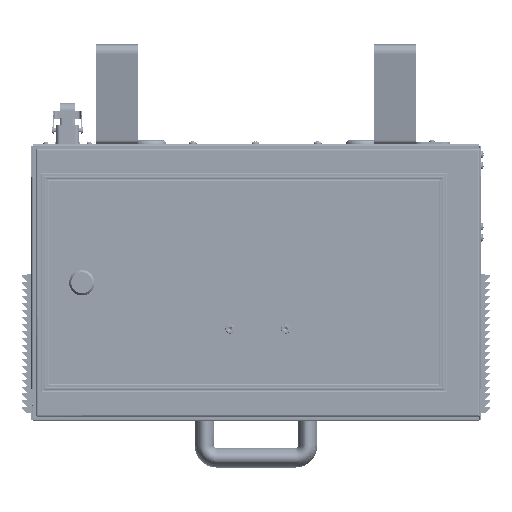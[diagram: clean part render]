
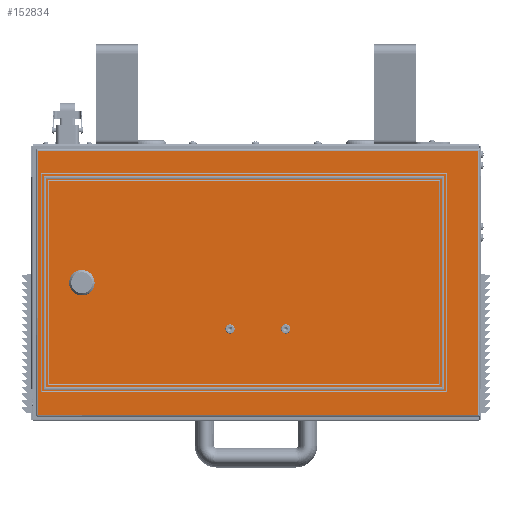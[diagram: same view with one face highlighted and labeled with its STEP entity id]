
A CAD part, front view. The second image highlights one B-rep face of the part: STEP entity #152834.
In plain terms, the highlighted planar face has unit normal (0, -1, 0) as drawn and (0, 1, 0) by its records, which use the part's own axes.
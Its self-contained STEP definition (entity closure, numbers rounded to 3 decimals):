
#842 = VECTOR ( 'NONE', #218004, 1000. ) ;
#2275 = DIRECTION ( 'NONE',  ( 0., 1., 0. ) ) ;
#3655 = LINE ( 'NONE', #47138, #38205 ) ;
#7771 = EDGE_CURVE ( 'NONE', #27066, #113745, #224921, .T. ) ;
#8530 = LINE ( 'NONE', #183546, #215748 ) ;
#9368 = ORIENTED_EDGE ( 'NONE', *, *, #7771, .T. ) ;
#10728 = EDGE_CURVE ( 'NONE', #213079, #110636, #239413, .T. ) ;
#11485 = VECTOR ( 'NONE', #238585, 1000. ) ;
#13039 = ORIENTED_EDGE ( 'NONE', *, *, #26577, .F. ) ;
#14384 = VECTOR ( 'NONE', #247694, 1000. ) ;
#15666 = CIRCLE ( 'NONE', #224480, 11.25 ) ;
#18927 = CARTESIAN_POINT ( 'NONE',  ( 237.5, 0., 142.5 ) ) ;
#25254 = ORIENTED_EDGE ( 'NONE', *, *, #248512, .F. ) ;
#26313 = AXIS2_PLACEMENT_3D ( 'NONE', #226408, #26471, #246666 ) ;
#26471 = DIRECTION ( 'NONE',  ( 0., 1., 0. ) ) ;
#26577 = EDGE_CURVE ( 'NONE', #59531, #250896, #15666, .T. ) ;
#27066 = VERTEX_POINT ( 'NONE', #76697 ) ;
#29786 = AXIS2_PLACEMENT_3D ( 'NONE', #176644, #193378, #154660 ) ;
#32026 = CARTESIAN_POINT ( 'NONE',  ( -190., 0., 0. ) ) ;
#34189 = CARTESIAN_POINT ( 'NONE',  ( -190., 0., 0. ) ) ;
#35884 = ORIENTED_EDGE ( 'NONE', *, *, #229937, .T. ) ;
#36537 = CARTESIAN_POINT ( 'NONE',  ( -195.056, 0., -10.05 ) ) ;
#37642 = DIRECTION ( 'NONE',  ( 0., 1., 0. ) ) ;
#38205 = VECTOR ( 'NONE', #165698, 1000. ) ;
#44141 = ORIENTED_EDGE ( 'NONE', *, *, #52566, .F. ) ;
#44166 = EDGE_CURVE ( 'NONE', #204737, #215616, #109956, .T. ) ;
#46015 = EDGE_LOOP ( 'NONE', ( #25254, #107389 ) ) ;
#46631 = DIRECTION ( 'NONE',  ( 0., 0., 1. ) ) ;
#47138 = CARTESIAN_POINT ( 'NONE',  ( -237.5, 0., -142.5 ) ) ;
#50053 = CARTESIAN_POINT ( 'NONE',  ( 237.5, 0., -142.5 ) ) ;
#52566 = EDGE_CURVE ( 'NONE', #247396, #132863, #162828, .T. ) ;
#54006 = AXIS2_PLACEMENT_3D ( 'NONE', #217096, #137262, #176806 ) ;
#55197 = AXIS2_PLACEMENT_3D ( 'NONE', #122544, #2275, #142672 ) ;
#56625 = CARTESIAN_POINT ( 'NONE',  ( -237.5, 0., -142.5 ) ) ;
#58525 = VERTEX_POINT ( 'NONE', #204708 ) ;
#58533 = ORIENTED_EDGE ( 'NONE', *, *, #214069, .F. ) ;
#59531 = VERTEX_POINT ( 'NONE', #177874 ) ;
#63429 = EDGE_CURVE ( 'NONE', #236849, #58525, #227564, .T. ) ;
#65403 = CARTESIAN_POINT ( 'NONE',  ( -190., 0., 0. ) ) ;
#66071 = DIRECTION ( 'NONE',  ( 0., 1., 0. ) ) ;
#67805 = ORIENTED_EDGE ( 'NONE', *, *, #63429, .F. ) ;
#67903 = CIRCLE ( 'NONE', #29786, 3.25 ) ;
#69650 = VECTOR ( 'NONE', #187602, 1000. ) ;
#76697 = CARTESIAN_POINT ( 'NONE',  ( -237.5, 0., 142.5 ) ) ;
#79853 = EDGE_LOOP ( 'NONE', ( #158010, #35884, #216596, #9368 ) ) ;
#80717 = CARTESIAN_POINT ( 'NONE',  ( -237.5, 0., 142.5 ) ) ;
#83194 = CARTESIAN_POINT ( 'NONE',  ( -200.05, 0., 5.056 ) ) ;
#84880 = EDGE_CURVE ( 'NONE', #132863, #247396, #67903, .T. ) ;
#85343 = DIRECTION ( 'NONE',  ( 0., 0., -1. ) ) ;
#88751 = DIRECTION ( 'NONE',  ( -1., 0., 0. ) ) ;
#95311 = PLANE ( 'NONE',  #54006 ) ;
#96472 = EDGE_CURVE ( 'NONE', #239345, #59531, #8530, .T. ) ;
#101784 = LINE ( 'NONE', #162429, #145783 ) ;
#102517 = LINE ( 'NONE', #107283, #14384 ) ;
#106874 = AXIS2_PLACEMENT_3D ( 'NONE', #32026, #109213, #190914 ) ;
#107283 = CARTESIAN_POINT ( 'NONE',  ( -200.05, 0., -5.056 ) ) ;
#107389 = ORIENTED_EDGE ( 'NONE', *, *, #44166, .F. ) ;
#109213 = DIRECTION ( 'NONE',  ( 0., 1., 0. ) ) ;
#109956 = CIRCLE ( 'NONE', #245037, 3.25 ) ;
#110636 = VERTEX_POINT ( 'NONE', #227496 ) ;
#113745 = VERTEX_POINT ( 'NONE', #18927 ) ;
#118667 = VERTEX_POINT ( 'NONE', #249377 ) ;
#120349 = VERTEX_POINT ( 'NONE', #83194 ) ;
#122544 = CARTESIAN_POINT ( 'NONE',  ( -190., 0., 0. ) ) ;
#130127 = DIRECTION ( 'NONE',  ( 0., 0., 1. ) ) ;
#132435 = ORIENTED_EDGE ( 'NONE', *, *, #149362, .F. ) ;
#132863 = VERTEX_POINT ( 'NONE', #179605 ) ;
#137262 = DIRECTION ( 'NONE',  ( 0., 1., 0. ) ) ;
#141713 = EDGE_CURVE ( 'NONE', #118667, #27066, #3655, .T. ) ;
#142672 = DIRECTION ( 'NONE',  ( 0., 0., 1. ) ) ;
#145394 = LINE ( 'NONE', #56625, #842 ) ;
#145783 = VECTOR ( 'NONE', #88751, 1000. ) ;
#147120 = CARTESIAN_POINT ( 'NONE',  ( 237.5, 0., -142.5 ) ) ;
#148615 = FACE_BOUND ( 'NONE', #46015, .T. ) ;
#148778 = AXIS2_PLACEMENT_3D ( 'NONE', #34189, #37642, #178023 ) ;
#149362 = EDGE_CURVE ( 'NONE', #120349, #213079, #247663, .T. ) ;
#151989 = DIRECTION ( 'NONE',  ( 0., 1., 0. ) ) ;
#152834 = ADVANCED_FACE ( 'NONE', ( #220879, #148615, #202116, #195792 ), #95311, .T. ) ;
#154660 = DIRECTION ( 'NONE',  ( 0., 0., 1. ) ) ;
#157993 = CARTESIAN_POINT ( 'NONE',  ( -30., 0., 53.25 ) ) ;
#158010 = ORIENTED_EDGE ( 'NONE', *, *, #219646, .T. ) ;
#158822 = CARTESIAN_POINT ( 'NONE',  ( -195.056, 0., 10.05 ) ) ;
#162429 = CARTESIAN_POINT ( 'NONE',  ( -195.056, 0., -10.05 ) ) ;
#162828 = CIRCLE ( 'NONE', #26313, 3.25 ) ;
#163186 = EDGE_LOOP ( 'NONE', ( #132435, #235936, #67805, #58533, #13039, #237782, #177504, #191757 ) ) ;
#165698 = DIRECTION ( 'NONE',  ( 0., 0., 1. ) ) ;
#167112 = DIRECTION ( 'NONE',  ( 0., 0., 1. ) ) ;
#176644 = CARTESIAN_POINT ( 'NONE',  ( 30., 0., 50. ) ) ;
#176806 = DIRECTION ( 'NONE',  ( 0., 0., 1. ) ) ;
#177367 = CIRCLE ( 'NONE', #230354, 3.25 ) ;
#177504 = ORIENTED_EDGE ( 'NONE', *, *, #189802, .F. ) ;
#177874 = CARTESIAN_POINT ( 'NONE',  ( -179.95, 0., -5.056 ) ) ;
#178023 = DIRECTION ( 'NONE',  ( 0., 0., 1. ) ) ;
#179605 = CARTESIAN_POINT ( 'NONE',  ( 30., 0., 46.75 ) ) ;
#182374 = CARTESIAN_POINT ( 'NONE',  ( -195.056, 0., 10.05 ) ) ;
#183546 = CARTESIAN_POINT ( 'NONE',  ( -179.95, 0., -5.056 ) ) ;
#186107 = VECTOR ( 'NONE', #240414, 1000. ) ;
#187602 = DIRECTION ( 'NONE',  ( 0., 0., -1. ) ) ;
#189802 = EDGE_CURVE ( 'NONE', #110636, #239345, #232146, .T. ) ;
#190914 = DIRECTION ( 'NONE',  ( 0., 0., 1. ) ) ;
#191757 = ORIENTED_EDGE ( 'NONE', *, *, #10728, .F. ) ;
#193378 = DIRECTION ( 'NONE',  ( 0., 1., 0. ) ) ;
#195792 = FACE_OUTER_BOUND ( 'NONE', #79853, .T. ) ;
#196730 = CARTESIAN_POINT ( 'NONE',  ( -184.944, 0., -10.05 ) ) ;
#202116 = FACE_BOUND ( 'NONE', #163186, .T. ) ;
#204708 = CARTESIAN_POINT ( 'NONE',  ( -200.05, 0., -5.056 ) ) ;
#204737 = VERTEX_POINT ( 'NONE', #246665 ) ;
#207529 = DIRECTION ( 'NONE',  ( 0., 1., 0. ) ) ;
#211343 = CARTESIAN_POINT ( 'NONE',  ( 30., 0., 53.25 ) ) ;
#213079 = VERTEX_POINT ( 'NONE', #182374 ) ;
#214069 = EDGE_CURVE ( 'NONE', #250896, #236849, #101784, .T. ) ;
#215616 = VERTEX_POINT ( 'NONE', #157993 ) ;
#215748 = VECTOR ( 'NONE', #85343, 1000. ) ;
#216367 = EDGE_CURVE ( 'NONE', #58525, #120349, #102517, .T. ) ;
#216596 = ORIENTED_EDGE ( 'NONE', *, *, #141713, .T. ) ;
#217096 = CARTESIAN_POINT ( 'NONE',  ( 0., 0., 0. ) ) ;
#218004 = DIRECTION ( 'NONE',  ( -1., 0., 0. ) ) ;
#219646 = EDGE_CURVE ( 'NONE', #113745, #234951, #226377, .T. ) ;
#220879 = FACE_BOUND ( 'NONE', #229140, .T. ) ;
#224480 = AXIS2_PLACEMENT_3D ( 'NONE', #65403, #207529, #167112 ) ;
#224921 = LINE ( 'NONE', #80717, #11485 ) ;
#226118 = ORIENTED_EDGE ( 'NONE', *, *, #84880, .F. ) ;
#226377 = LINE ( 'NONE', #147120, #69650 ) ;
#226408 = CARTESIAN_POINT ( 'NONE',  ( 30., 0., 50. ) ) ;
#227496 = CARTESIAN_POINT ( 'NONE',  ( -184.944, 0., 10.05 ) ) ;
#227564 = CIRCLE ( 'NONE', #148778, 11.25 ) ;
#229140 = EDGE_LOOP ( 'NONE', ( #44141, #226118 ) ) ;
#229915 = CARTESIAN_POINT ( 'NONE',  ( -30., 0., 50. ) ) ;
#229937 = EDGE_CURVE ( 'NONE', #234951, #118667, #145394, .T. ) ;
#230354 = AXIS2_PLACEMENT_3D ( 'NONE', #231822, #151989, #130127 ) ;
#231822 = CARTESIAN_POINT ( 'NONE',  ( -30., 0., 50. ) ) ;
#232146 = CIRCLE ( 'NONE', #106874, 11.25 ) ;
#234951 = VERTEX_POINT ( 'NONE', #50053 ) ;
#235936 = ORIENTED_EDGE ( 'NONE', *, *, #216367, .F. ) ;
#236849 = VERTEX_POINT ( 'NONE', #36537 ) ;
#237782 = ORIENTED_EDGE ( 'NONE', *, *, #96472, .F. ) ;
#238585 = DIRECTION ( 'NONE',  ( 1., 0., 0. ) ) ;
#239345 = VERTEX_POINT ( 'NONE', #256213 ) ;
#239413 = LINE ( 'NONE', #158822, #186107 ) ;
#240414 = DIRECTION ( 'NONE',  ( 1., 0., 0. ) ) ;
#245037 = AXIS2_PLACEMENT_3D ( 'NONE', #229915, #66071, #46631 ) ;
#246665 = CARTESIAN_POINT ( 'NONE',  ( -30., 0., 46.75 ) ) ;
#246666 = DIRECTION ( 'NONE',  ( 0., 0., 1. ) ) ;
#247396 = VERTEX_POINT ( 'NONE', #211343 ) ;
#247663 = CIRCLE ( 'NONE', #55197, 11.25 ) ;
#247694 = DIRECTION ( 'NONE',  ( 0., 0., 1. ) ) ;
#248512 = EDGE_CURVE ( 'NONE', #215616, #204737, #177367, .T. ) ;
#249377 = CARTESIAN_POINT ( 'NONE',  ( -237.5, 0., -142.5 ) ) ;
#250896 = VERTEX_POINT ( 'NONE', #196730 ) ;
#256213 = CARTESIAN_POINT ( 'NONE',  ( -179.95, 0., 5.056 ) ) ;
